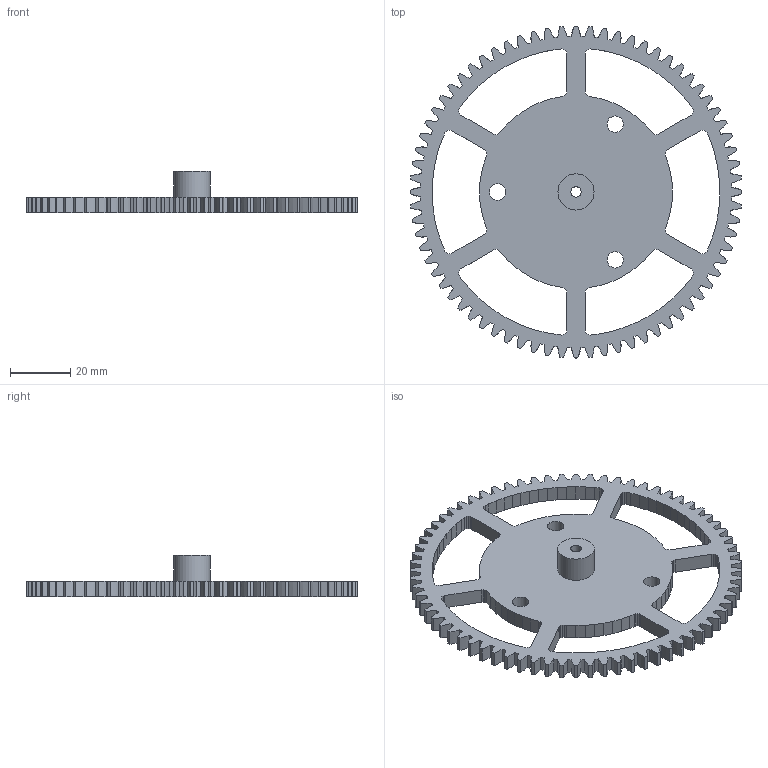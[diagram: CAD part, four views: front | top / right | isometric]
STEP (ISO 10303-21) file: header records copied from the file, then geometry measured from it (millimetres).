
FILE_DESCRIPTION(('Open CASCADE Model'),'2;1');
FILE_NAME('Open CASCADE Shape Model','2026-10-12T22:10:13',('Author'),( 'Open CASCADE'),'Open CASCADE STEP processor 7.9','Open CASCADE 7.9' ,'Unknown');
FILE_SCHEMA(('AUTOMOTIVE_DESIGN { 1 0 10303 214 1 1 1 1 }'));
Length unit declared in the file: millimetre
Products named in the file (1): Open CASCADE STEP translator 7.9 7
Bounding box: 110.1 x 110.1 x 13.6 mm (x, y, z)
Volume: 28448.4 mm3; surface area: 18197.8 mm2
Topology: 1 solids, 1 shells, 540 faces, 1611 edges, 1074 vertices
Faces by surface type: plane 247, cylinder 149, extrusion 144
Full cylindrical faces by diameter (mm): 3.5 x1, 5.4 x3, 12 x1
Entity records: 42934 total; most frequent: CARTESIAN_POINT 11488, DIRECTION 5493, VECTOR 3805, LINE 3661, ORIENTED_EDGE 3222, PCURVE 3222, DEFINITIONAL_REPRESENTATION 3222, EDGE_CURVE 1611
